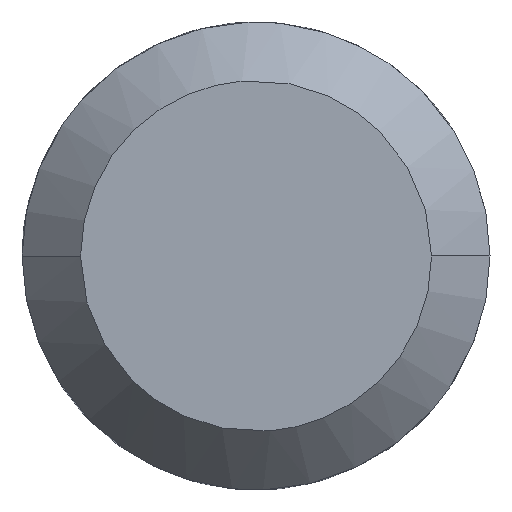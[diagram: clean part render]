
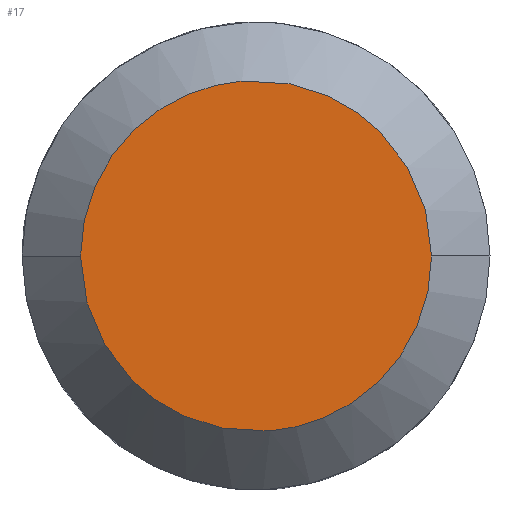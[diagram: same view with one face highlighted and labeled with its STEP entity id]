
A CAD part, front view. The second image highlights one B-rep face of the part: STEP entity #17.
In plain terms, the highlighted planar face has unit normal (0, -1, 0).
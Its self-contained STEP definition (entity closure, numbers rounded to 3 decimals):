
#17=ADVANCED_FACE('',(#25),#112,.T.);
#25=FACE_OUTER_BOUND('',#33,.T.);
#33=EDGE_LOOP('',(#41,#42));
#41=ORIENTED_EDGE('',*,*,#77,.F.);
#42=ORIENTED_EDGE('',*,*,#69,.F.);
#69=EDGE_CURVE('',#98,#102,#84,.T.);
#77=EDGE_CURVE('',#102,#98,#92,.T.);
#84=B_SPLINE_CURVE_WITH_KNOTS('',3,(#349,#350,#351,#352,#353,#354,#355),
 .UNSPECIFIED.,.F.,.F.,(4,1,1,1,4),(0.,2.278,4.712,
6.991,9.424),.UNSPECIFIED.);
#92=B_SPLINE_CURVE_WITH_KNOTS('',3,(#386,#387,#388,#389,#390,#391,#392),
 .UNSPECIFIED.,.F.,.F.,(4,1,1,1,4),(9.424,11.703,14.137,
16.415,18.849),.UNSPECIFIED.);
#98=VERTEX_POINT('',#341);
#102=VERTEX_POINT('',#345);
#112=PLANE('',#202);
#202=AXIS2_PLACEMENT_3D('',#215,#208,$);
#208=DIRECTION('',(0.,-1.,0.));
#215=CARTESIAN_POINT('',(-3.794,0.,3.794));
#341=CARTESIAN_POINT('',(2.846,0.,0.));
#345=CARTESIAN_POINT('',(-2.848,0.,0.));
#349=CARTESIAN_POINT('',(2.846,0.,0.));
#350=CARTESIAN_POINT('',(2.849,0.,-0.719));
#351=CARTESIAN_POINT('',(2.252,0.,-2.21));
#352=CARTESIAN_POINT('',(0.052,0.,-3.155));
#353=CARTESIAN_POINT('',(-2.21,0.,-2.253));
#354=CARTESIAN_POINT('',(-2.847,0.,-0.769));
#355=CARTESIAN_POINT('',(-2.848,0.,0.));
#386=CARTESIAN_POINT('',(-2.848,0.,0.));
#387=CARTESIAN_POINT('',(-2.848,0.,0.719));
#388=CARTESIAN_POINT('',(-2.253,0.,2.21));
#389=CARTESIAN_POINT('',(-0.05,0.,3.156));
#390=CARTESIAN_POINT('',(2.208,0.,2.252));
#391=CARTESIAN_POINT('',(2.85,0.,0.77));
#392=CARTESIAN_POINT('',(2.846,0.,0.));
